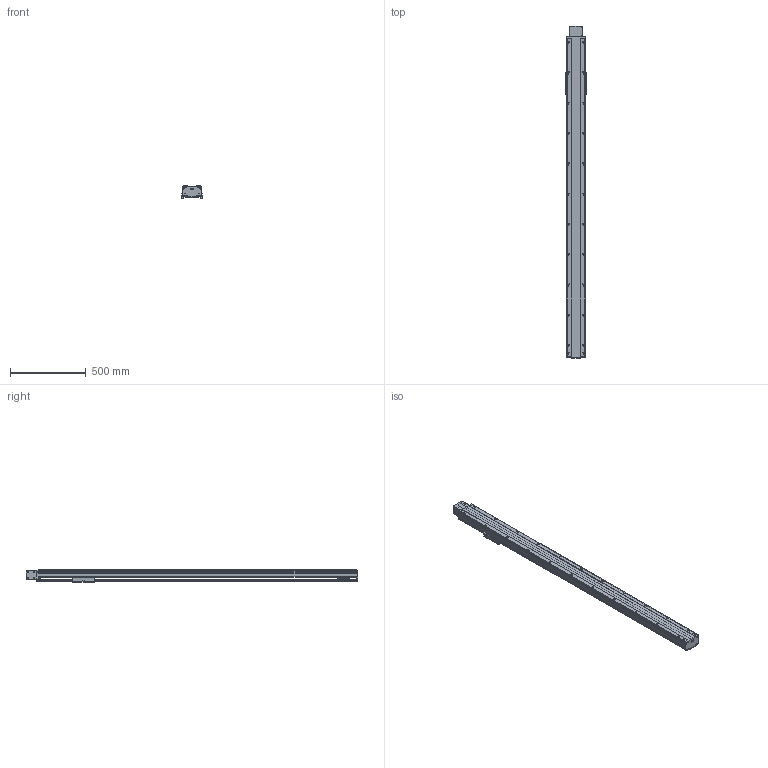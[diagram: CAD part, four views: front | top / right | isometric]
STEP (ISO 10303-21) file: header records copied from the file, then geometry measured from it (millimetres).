
FILE_DESCRIPTION(/* description */ (''),/* implementation_level */ '2;1');
FILE_NAME(/* name */ 'TKB120-FR-1800_asm1_stp_stp.stp',/* time_stamp */ '2016-06-28T16:14:12+08:00',/* author */ (''),/* organization */ (''),/* preprocessor_version */ 'ST-DEVELOPER v15',/* originating_system */ 'SIEMENS PLM Software NX 8.5',/* authorisation */ '');
FILE_SCHEMA (('AUTOMOTIVE_DESIGN { 1 0 10303 214 3 1 1 1 }'));
Length unit declared in the file: millimetre
Products named in the file (3): 200-2; 200-1; TKB120-FR-1800_asm1_stp_stp
Assembly tree (2 placements, depth 2):
  TKB120-FR-1800_asm1_stp_stp
    200-1
    200-2
Bounding box: 134 x 2191 x 80 mm (x, y, z)
Volume: 5367933.3 mm3; surface area: 2218373.4 mm2
Topology: 2 solids, 3 shells, 863 faces, 2557 edges, 1688 vertices
Faces by surface type: cylinder 433, plane 388, cone 42
Full cylindrical faces by diameter (mm): 2.5 x4, 3.3 x20, 4.2 x4, 4.5 x24, 5 x34, 5.5 x24, 6.6 x6, 6.8 x4, 7.5 x4, 8 x12, 9 x6, 9.75 x48, 10.5 x4, 11 x2, 12 x4, 14 x2, 17 x2, 35 x2, 40 x3, 50 x2, 52 x1
Entity records: 28457 total; most frequent: CARTESIAN_POINT 6243, DIRECTION 4648, ORIENTED_EDGE 4292, EDGE_CURVE 2146, AXIS2_PLACEMENT_3D 1778, VERTEX_POINT 1573, EDGE_LOOP 1329, LINE 1092
